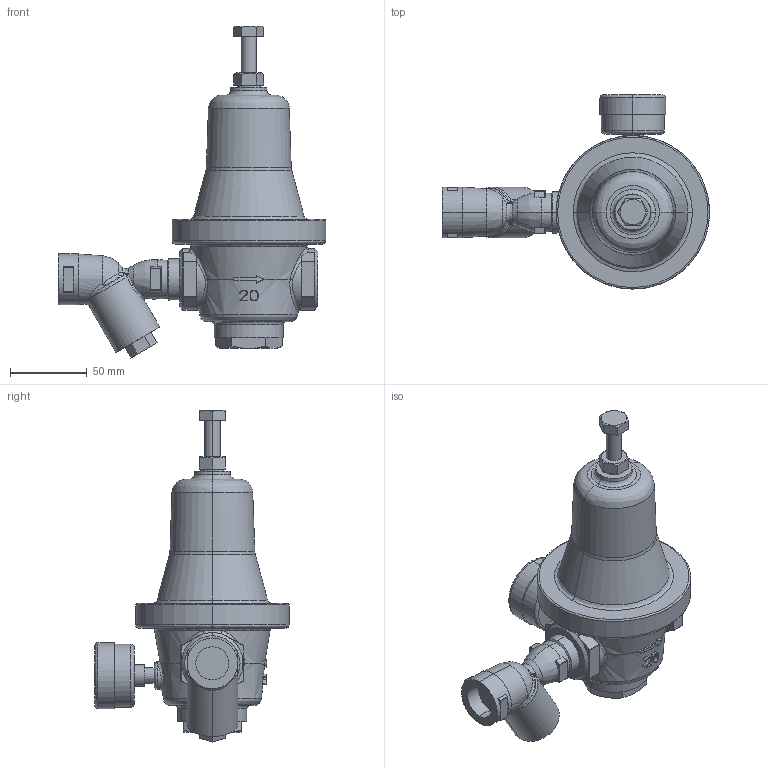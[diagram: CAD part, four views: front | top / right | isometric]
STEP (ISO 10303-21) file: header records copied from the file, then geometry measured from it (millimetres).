
FILE_DESCRIPTION( (''), '2;1');
FILE_NAME ('PC1276.1724.GD-24GS 20A_16954.stp','2025-12-10T13:17:20',(''),(''),'spGate 20.6.3 (****-****-****-****)','','');
FILE_SCHEMA (('AUTOMOTIVE_DESIGN'));
Length unit declared in the file: millimetre
Products named in the file (3): Assembly; SY-24　20A　キャップ; GD-24　20A
Assembly tree (2 placements, depth 2):
  Assembly
    SY-24　20A　キャップ
    GD-24　20A
Bounding box: 174 x 126.53 x 216.24 mm (x, y, z)
Volume: 701230.9 mm3; surface area: 70056 mm2
Topology: 2 solids, 2 shells, 413 faces, 967 edges, 562 vertices
Faces by surface type: bspline 152, cylinder 118, plane 107, sphere 36
Entity records: 25066 total; most frequent: CARTESIAN_POINT 9045, ORIENTED_EDGE 1896, DIRECTION 1492, COLOUR_RGB 1363, PRESENTATION_STYLE_ASSIGNMENT 1363, STYLED_ITEM 1363, EDGE_CURVE 948, DRAUGHTING_PRE_DEFINED_CURVE_FONT 948
